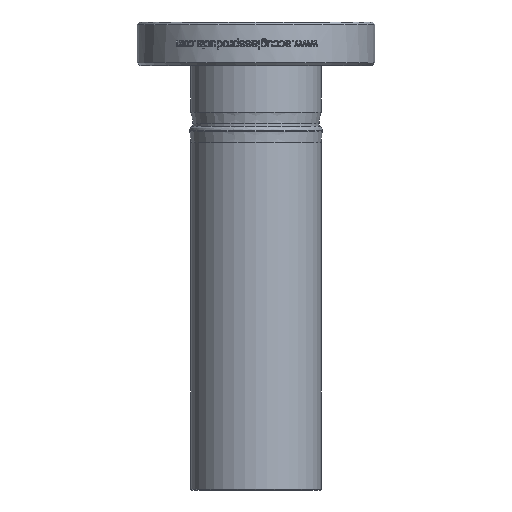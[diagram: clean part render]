
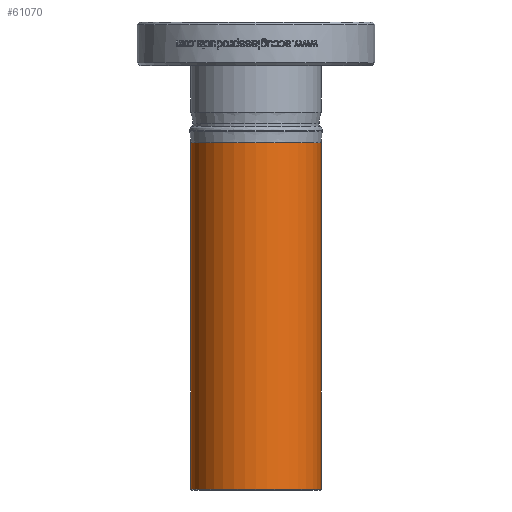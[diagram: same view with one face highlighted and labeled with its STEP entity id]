
A CAD part, front view. The second image highlights one B-rep face of the part: STEP entity #61070.
In plain terms, the highlighted cylindrical face has radius 19.05 mm (diameter 38.1 mm), a partial arc.
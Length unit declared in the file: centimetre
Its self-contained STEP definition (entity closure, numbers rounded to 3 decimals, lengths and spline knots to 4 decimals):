
#802 = VECTOR ( 'NONE', #17647, 100. ) ;
#803 = LINE ( 'NONE', #17642, #802 ) ;
#872 = LINE ( 'NONE', #48079, #879 ) ;
#879 = VECTOR ( 'NONE', #48080, 100. ) ;
#1065 = CIRCLE ( 'NONE', #15805, 1.905 ) ;
#2645 = CARTESIAN_POINT ( 'NONE',  ( 0., 0., -13.6271 ) ) ;
#2647 = DIRECTION ( 'NONE',  ( 0., 0., 1. ) ) ;
#2649 = DIRECTION ( 'NONE',  ( -1., 0., 0. ) ) ;
#8943 = EDGE_CURVE ( 'NONE', #46566, #46501, #64548, .T. ) ;
#15573 = EDGE_CURVE ( 'NONE', #63517, #46501, #803, .T. ) ;
#15662 = EDGE_CURVE ( 'NONE', #46454, #46566, #872, .T. ) ;
#15716 = AXIS2_PLACEMENT_3D ( 'NONE', #2645, #2647, #2649 ) ;
#15805 = AXIS2_PLACEMENT_3D ( 'NONE', #37692, #37693, #37694 ) ;
#17642 = CARTESIAN_POINT ( 'NONE',  ( 1.905, 0., -3.175 ) ) ;
#17647 = DIRECTION ( 'NONE',  ( 0., 0., -1. ) ) ;
#19701 = CARTESIAN_POINT ( 'NONE',  ( -1.905, 0., -3.5203 ) ) ;
#19748 = CARTESIAN_POINT ( 'NONE',  ( 1.905, 0., -13.6271 ) ) ;
#19813 = CARTESIAN_POINT ( 'NONE',  ( -1.905, 0., -13.6271 ) ) ;
#20236 = EDGE_CURVE ( 'NONE', #63517, #46454, #1065, .T. ) ;
#31492 = AXIS2_PLACEMENT_3D ( 'NONE', #47776, #47774, #47772 ) ;
#37692 = CARTESIAN_POINT ( 'NONE',  ( 0., 0., -3.5203 ) ) ;
#37693 = DIRECTION ( 'NONE',  ( 0., 0., -1. ) ) ;
#37694 = DIRECTION ( 'NONE',  ( -1., 0., 0. ) ) ;
#45564 = CYLINDRICAL_SURFACE ( 'NONE', #31492, 1.905 ) ;
#45570 = FACE_OUTER_BOUND ( 'NONE', #53642, .T. ) ;
#46134 = ORIENTED_EDGE ( 'NONE', *, *, #8943, .T. ) ;
#46150 = ORIENTED_EDGE ( 'NONE', *, *, #15662, .T. ) ;
#46158 = ORIENTED_EDGE ( 'NONE', *, *, #20236, .T. ) ;
#46174 = ORIENTED_EDGE ( 'NONE', *, *, #15573, .F. ) ;
#46454 = VERTEX_POINT ( 'NONE', #19701 ) ;
#46501 = VERTEX_POINT ( 'NONE', #19748 ) ;
#46566 = VERTEX_POINT ( 'NONE', #19813 ) ;
#47772 = DIRECTION ( 'NONE',  ( -1., 0., 0. ) ) ;
#47774 = DIRECTION ( 'NONE',  ( 0., 0., -1. ) ) ;
#47776 = CARTESIAN_POINT ( 'NONE',  ( 0., 0., -3.175 ) ) ;
#48079 = CARTESIAN_POINT ( 'NONE',  ( -1.905, 0., -3.175 ) ) ;
#48080 = DIRECTION ( 'NONE',  ( 0., 0., -1. ) ) ;
#53642 = EDGE_LOOP ( 'NONE', ( #46174, #46158, #46150, #46134 ) ) ;
#59602 = CARTESIAN_POINT ( 'NONE',  ( 1.905, 0., -3.5203 ) ) ;
#61070 = ADVANCED_FACE ( 'NONE', ( #45570 ), #45564, .T. ) ;
#63517 = VERTEX_POINT ( 'NONE', #59602 ) ;
#64548 = CIRCLE ( 'NONE', #15716, 1.905 ) ;
